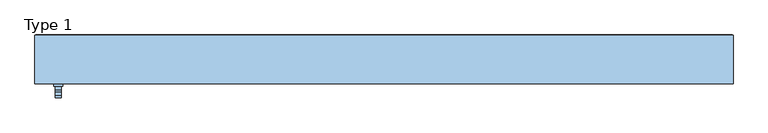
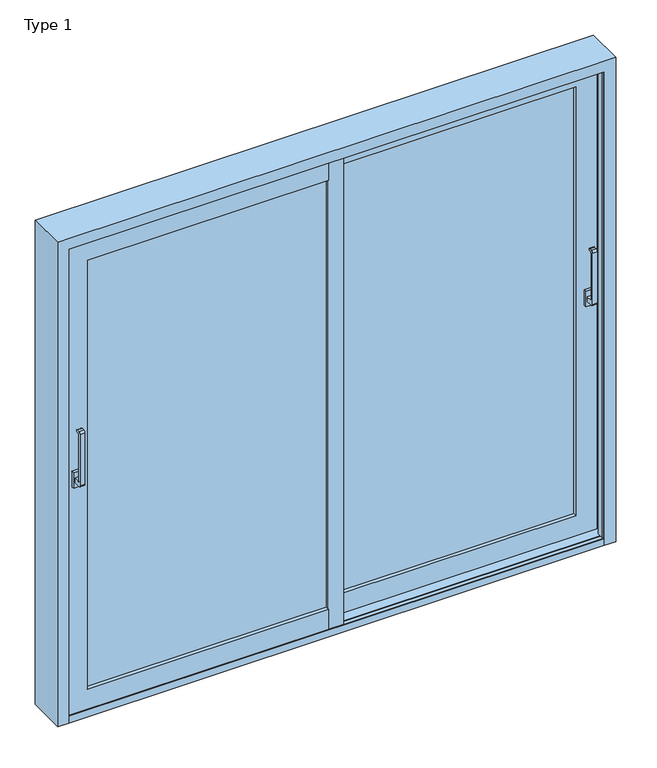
"""IFC4 building model written with IfcOpenShell, lengths in millimetres: window geometry, ETEM_E50_Double_Fly Screen_NI_Lift_Sliding_FR : Type 1."""

from ifc_helpers import new_model, si_unit, point, frame, frame_2d, origin, place, context, project, spatial, polyline, circle_curve, ellipse_curve, trimmed, segment, composite_curve, outline, extrude, faceted_brep, source, transform, mapped, element, save
from ifc_brep_helpers import plane_surface, cylinder_surface, revolved_surface, advanced_brep


def type_1_4643321e(model_context):
    return source(origin(), model_context, "Body", "SolidModel", [
        extrude(outline(polyline([(1135.0, -5.6518056), (1105.0, -5.6518056), (1105.0, 7.3481944), (1135.0, 7.3481944), (1135.0, -5.6518056)])), frame((0.0, 0.0, 1065.0), z_axis=(0.0, 0.0, 1.0), x_axis=(1.0, 0.0, 0.0)), (0.0, 0.0, 1.0), 70.0),
        extrude(outline(composite_curve([segment(polyline([(-5.6518056, 1090.0), (-37.2254904, 1090.0)]), True, "CONTINUOUS"), segment(trimmed(circle_curve(frame_2d((-37.2254904, 1098.4263152)), 8.4263152), [point((-37.2254904, 1090.0))], [point((-45.6518056, 1098.4263152))], False, "CARTESIAN"), True, "CONTINUOUS"), segment(polyline([(-45.6518056, 1098.4263152), (-45.6518056, 1331.5736848)]), True, "CONTINUOUS"), segment(trimmed(circle_curve(frame_2d((-37.2254904, 1331.5736848)), 8.4263152), [point((-45.6518056, 1331.5736848))], [point((-37.2254904, 1340.0))], False, "CARTESIAN"), True, "CONTINUOUS"), segment(polyline([(-37.2254904, 1340.0), (-25.6518056, 1340.0)]), True, "CONTINUOUS"), segment(trimmed(circle_curve(frame_2d((-25.6518056, 1335.0)), 5.0), [point((-25.6518056, 1340.0))], [point((-25.6518056, 1330.0))], False, "CARTESIAN"), True, "CONTINUOUS"), segment(polyline([(-25.6518056, 1330.0), (-32.1162717, 1330.0)]), True, "CONTINUOUS"), segment(trimmed(circle_curve(frame_2d((-32.1162717, 1326.4644661)), 3.5355339), [point((-32.1162717, 1330.0))], [point((-35.6518056, 1326.4644661))], True, "CARTESIAN"), True, "CONTINUOUS"), segment(polyline([(-35.6518056, 1326.4644661), (-35.6518056, 1113.5355339)]), True, "CONTINUOUS"), segment(trimmed(circle_curve(frame_2d((-32.1162717, 1113.5355339)), 3.5355339), [point((-35.6518056, 1113.5355339))], [point((-32.1162717, 1110.0))], True, "CARTESIAN"), True, "CONTINUOUS"), segment(polyline([(-32.1162717, 1110.0), (-5.6518056, 1110.0), (-5.6518056, 1090.0)]), True, "CONTINUOUS")], self_intersect=False)), frame((1110.0, 0.0, 0.0), z_axis=(1.0, 0.0, 0.0), x_axis=(0.0, 1.0, 0.0)), (0.0, 0.0, 1.0), 20.0),
        extrude(outline(polyline([(-1105.0, -70.6518056), (-1135.0, -70.6518056), (-1135.0, -57.6518056), (-1105.0, -57.6518056), (-1105.0, -70.6518056)])), frame((0.0, 0.0, 1065.0), z_axis=(0.0, 0.0, 1.0), x_axis=(1.0, 0.0, 0.0)), (0.0, 0.0, 1.0), 70.0),
        extrude(outline(composite_curve([segment(polyline([(-70.6518056, 1090.0), (-102.2254904, 1090.0)]), True, "CONTINUOUS"), segment(trimmed(circle_curve(frame_2d((-102.2254904, 1098.4263152)), 8.4263152), [point((-102.2254904, 1090.0))], [point((-110.6518056, 1098.4263152))], False, "CARTESIAN"), True, "CONTINUOUS"), segment(polyline([(-110.6518056, 1098.4263152), (-110.6518056, 1331.5736848)]), True, "CONTINUOUS"), segment(trimmed(circle_curve(frame_2d((-102.2254904, 1331.5736848)), 8.4263152), [point((-110.6518056, 1331.5736848))], [point((-102.2254904, 1340.0))], False, "CARTESIAN"), True, "CONTINUOUS"), segment(polyline([(-102.2254904, 1340.0), (-90.6518056, 1340.0)]), True, "CONTINUOUS"), segment(trimmed(circle_curve(frame_2d((-90.6518056, 1335.0)), 5.0), [point((-90.6518056, 1340.0))], [point((-90.6518056, 1330.0))], False, "CARTESIAN"), True, "CONTINUOUS"), segment(polyline([(-90.6518056, 1330.0), (-97.1162717, 1330.0)]), True, "CONTINUOUS"), segment(trimmed(circle_curve(frame_2d((-97.1162717, 1326.4644661)), 3.5355339), [point((-97.1162717, 1330.0))], [point((-100.6518056, 1326.4644661))], True, "CARTESIAN"), True, "CONTINUOUS"), segment(polyline([(-100.6518056, 1326.4644661), (-100.6518056, 1113.5355339)]), True, "CONTINUOUS"), segment(trimmed(circle_curve(frame_2d((-97.1162717, 1113.5355339)), 3.5355339), [point((-100.6518056, 1113.5355339))], [point((-97.1162717, 1110.0))], True, "CARTESIAN"), True, "CONTINUOUS"), segment(polyline([(-97.1162717, 1110.0), (-70.6518056, 1110.0), (-70.6518056, 1090.0)]), True, "CONTINUOUS")], self_intersect=False)), frame((-1130.0, 0.0, 0.0), z_axis=(1.0, 0.0, 0.0), x_axis=(0.0, 1.0, 0.0)), (0.0, 0.0, 1.0), 20.0),
        faceted_brep([(-32.5, -7.6518056, 121.470192), (-32.5, -57.6518056, 121.470192), (-32.5, -57.6518056, 29.970192), (-32.5, -52.9518056, 29.970192), (-32.5, -52.9518056, 59.170192), (-32.5, -12.3518056, 59.170192), (-32.5, -12.3518056, 29.970192), (-32.5, -7.6518056, 29.970192), (-32.5, -7.6518056, 2069.0), (-32.5, -7.6518056, 2160.5), (-32.5, -12.3518056, 2160.5), (-32.5, -12.3518056, 2131.3), (-32.5, -52.9518056, 2131.3), (-32.5, -52.9518056, 2160.5), (-32.5, -57.6518056, 2160.5), (-32.5, -57.6518056, 2069.0), (-1068.999965, -7.6518056, 121.470192), (-1068.999965, -57.6518056, 121.470192), (-1068.999965, -57.6518056, 2069.0), (-1160.499965, -57.6518056, 2160.5), (-1160.499965, -57.6518056, 29.970192), (-1160.499965, -52.9518056, 29.970192), (-1160.499965, -52.9518056, 2160.5), (-1131.299965, -52.9518056, 2131.3), (-1131.299965, -52.9518056, 59.170192), (-1131.299965, -12.3518056, 59.170192), (-1131.299965, -12.3518056, 2131.3), (-1160.499965, -12.3518056, 2160.5), (-1160.499965, -12.3518056, 29.970192), (-1160.499965, -7.6518056, 29.970192), (-1160.499965, -7.6518056, 2160.5), (-1068.999965, -7.6518056, 2069.0)], [[[0, 1, 2, 3, 4, 5, 6, 7]], [[8, 9, 10, 11, 12, 13, 14, 15]], [[1, 0, 16, 17]], [[2, 1, 17, 18, 15, 14, 19, 20]], [[3, 2, 20, 21]], [[4, 3, 21, 22, 13, 12, 23, 24]], [[5, 4, 24, 25]], [[6, 5, 25, 26, 11, 10, 27, 28]], [[7, 6, 28, 29]], [[0, 7, 29, 30, 9, 8, 31, 16]], [[17, 16, 31, 18]], [[21, 20, 19, 22]], [[25, 24, 23, 26]], [[29, 28, 27, 30]], [[18, 31, 8, 15]], [[22, 19, 14, 13]], [[26, 23, 12, 11]], [[30, 27, 10, 9]]]),
        extrude(outline(polyline([(32.5, -56.9259028), (-32.5, -56.9259028), (-32.5, -6.9259028), (2.55, -6.9259028), (2.55, 0.6), (0.0, 0.6), (0.0, 2.4740972), (4.4, 2.4740972), (4.4, -2.2259028), (15.75, -2.2259028), (15.75, 4.0740972), (32.5, 4.0740972), (32.5, -56.9259028)])), frame((0.0, 0.0, 29.970192), z_axis=(0.0, 0.0, 1.0), x_axis=(1.0, 0.0, 0.0)), (0.0, 0.0, 1.0), 2130.529808),
        extrude(outline(polyline([(-32.5, -41.6518056), (-1068.999965, -41.6518056), (-1068.999965, -36.6518056), (-32.5, -36.6518056), (-32.5, -41.6518056)])), frame((0.0, 0.0, 121.470192), z_axis=(0.0, 0.0, 1.0), x_axis=(1.0, 0.0, 0.0)), (0.0, 0.0, 1.0), 1947.529808),
        extrude(outline(polyline([(32.5, 49.3480733), (1068.999965, 49.3480733), (1068.999965, 44.3480733), (32.5, 44.3480733), (32.5, 49.3480733)])), frame((0.0, 0.0, 121.470192), z_axis=(0.0, 0.0, 1.0), x_axis=(1.0, 0.0, 0.0)), (0.0, 0.0, 1.0), 1947.529808),
        extrude(outline(polyline([(32.5, 28.3481944), (1068.999965, 28.3481944), (1068.999965, 23.3481944), (32.5, 23.3481944), (32.5, 28.3481944)])), frame((0.0, 0.0, 121.470192), z_axis=(0.0, 0.0, 1.0), x_axis=(1.0, 0.0, 0.0)), (0.0, 0.0, 1.0), 1947.529808),
        extrude(outline(polyline([(-32.5, -20.6519267), (-1068.999965, -20.6519267), (-1068.999965, -15.6519267), (-32.5, -15.6519267), (-32.5, -20.6519267)])), frame((0.0, 0.0, 121.470192), z_axis=(0.0, 0.0, 1.0), x_axis=(1.0, 0.0, 0.0)), (0.0, 0.0, 1.0), 1947.529808),
        extrude(outline(polyline([(-28.5, 71.3620462), (-1099.499965, 71.3620462), (-1099.499965, 72.3620462), (-28.5, 72.3620462), (-28.5, 71.3620462)])), frame((0.0, 0.0, 90.970192), z_axis=(0.0, 0.0, 1.0), x_axis=(1.0, 0.0, 0.0)), (0.0, 0.0, 1.0), 2008.529808),
        advanced_brep(
        [(-30.7545455, 73.5595618, 2097.2454545), (-30.7, 72.3620462, 2097.3), (-30.7, 72.3620462, 93.170192), (-30.7545455, 73.5595618, 93.2247374), (-1097.299965, 72.3620462, 2097.3), (-1097.299965, 72.3620462, 93.170192), (-32.5, 72.3620462, 94.970192), (-1095.499965, 72.3620462, 94.970192), (-1095.499965, 72.3620462, 2095.5), (-32.5, 72.3620462, 2095.5), (-1097.2454195, 73.5595618, 93.2247374), (-31.3, 74.0574913, 2096.7), (-31.3, 74.0574913, 93.770192), (-1096.699965, 74.0574913, 93.770192), (-31.3, 78.8481944, 2096.7), (-31.3, 78.8481944, 93.770192), (-1096.699965, 78.8481944, 93.770192), (-25.1, 78.8481944, 2102.9), (-1102.899965, 78.8481944, 2102.9), (-1102.899965, 78.8481944, 87.570192), (-25.1, 78.8481944, 87.570192), (-1096.699965, 78.8481944, 2096.7), (-25.1, 68.5481944, 2102.9), (-25.1, 68.5481944, 87.570192), (-1102.899965, 68.5481944, 87.570192), (-23.1, 68.5481944, 2104.9), (-1104.899965, 68.5481944, 2104.9), (-1104.899965, 68.5481944, 85.570192), (-23.1, 68.5481944, 85.570192), (-1102.899965, 68.5481944, 2102.9), (-23.1545455, 69.7457099, 2104.8454545), (-23.1545455, 69.7457099, 85.6247374), (-1104.8454195, 69.7457099, 85.6247374), (-23.7, 70.2436394, 2104.3), (-23.7, 70.2436394, 86.170192), (-1104.299965, 70.2436394, 86.170192), (-23.7, 76.3481944, 2104.3), (-23.7, 76.3481944, 86.170192), (-1104.299965, 76.3481944, 86.170192), (-3.2, 76.3481944, 2124.8), (-1124.799965, 76.3481944, 2124.8), (-1124.799965, 76.3481944, 65.670192), (-3.2, 76.3481944, 65.670192), (-1104.299965, 76.3481944, 2104.3), (-3.2, 67.3481944, 2124.8), (-3.2, 67.3481944, 65.670192), (-1124.799965, 67.3481944, 65.670192), (22.9949874, 67.3481944, 2150.9949874), (-1150.9949524, 67.3481944, 2150.9949874), (-1150.9949524, 67.3481944, 39.4752045), (22.9949874, 67.3481944, 39.4752045), (-1124.799965, 67.3481944, 2124.8), (22.9949874, 65.5481944, 2150.9949874), (22.9949874, 65.5481944, 39.4752045), (-1150.9949524, 65.5481944, 39.4752045), (32.5, 65.5481944, 2160.5), (-1160.499965, 65.5481944, 2160.5), (-1160.499965, 65.5481944, 29.970192), (32.5, 65.5481944, 29.970192), (-1150.9949524, 65.5481944, 2150.9949874), (32.5, 74.5481944, 2160.5), (32.5, 74.5481944, 29.970192), (-1160.499965, 74.5481944, 29.970192), (-1160.499965, 74.5481944, 2160.5), (20.3, 74.5481944, 2148.3), (-1148.299965, 74.5481944, 2148.3), (-1148.299965, 74.5481944, 42.170192), (20.3, 74.5481944, 42.170192), (20.3, 92.1481944, 2148.3), (20.3, 92.1481944, 42.170192), (-1148.299965, 92.1481944, 42.170192), (32.5, 92.1481944, 2160.5), (-1160.499965, 92.1481944, 2160.5), (-1160.499965, 92.1481944, 29.970192), (32.5, 92.1481944, 29.970192), (-1148.299965, 92.1481944, 2148.3), (32.5, 99.3481944, 2160.5), (32.5, 99.3481944, 29.970192), (-1160.499965, 99.3481944, 29.970192), (-1160.499965, 99.3481944, 2160.5), (-3.2, 99.3481944, 2124.8), (-1124.799965, 99.3481944, 2124.8), (-1124.799965, 99.3481944, 65.670192), (-3.2, 99.3481944, 65.670192), (-3.2, 90.1481944, 2124.8), (-3.2, 90.1481944, 65.670192), (-1124.799965, 90.1481944, 65.670192), (-1124.799965, 90.1481944, 2124.8), (-20.0, 90.1481944, 2108.0), (-1107.999965, 90.1481944, 2108.0), (-1107.999965, 90.1481944, 82.470192), (-20.0, 90.1481944, 82.470192), (-20.0, 99.3481944, 2108.0), (-20.0, 99.3481944, 82.470192), (-1107.999965, 99.3481944, 82.470192), (-1107.999965, 99.3481944, 2108.0), (-32.5, 99.3481944, 2095.5), (-1095.499965, 99.3481944, 2095.5), (-1095.499965, 99.3481944, 94.970192), (-32.5, 99.3481944, 94.970192), (-1097.2454195, 73.5595618, 2097.2454545), (-1096.699965, 74.0574913, 2096.7), (-1104.8454195, 69.7457099, 2104.8454545), (-1104.299965, 70.2436394, 2104.3)],
        [
            (0, 1, ellipse_curve(frame((-30.7, 72.9620462, 2097.3), z_axis=(0.7071067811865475, 0.0, -0.7071067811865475), x_axis=(0.7071067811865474, 0.0, 0.7071067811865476)), 0.8485281, 0.6)),
            (1, 2),
            (2, 3, ellipse_curve(frame((-30.7, 72.9620462, 93.170192), z_axis=(0.7071067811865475, 0.0, 0.7071067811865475), x_axis=(-0.7071067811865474, 0.0, 0.7071067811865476)), 0.8485281, 0.6)),
            (3, 0),
            (1, 4),
            (4, 5),
            (5, 2),
            (6, 7),
            (7, 8),
            (8, 9),
            (9, 6),
            (5, 10, ellipse_curve(frame((-1097.299965, 72.9620462, 93.170192), z_axis=(0.7071067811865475, 0.0, -0.7071067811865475), x_axis=(0.7071067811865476, 0.0, 0.7071067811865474)), 0.8485281, 0.6)),
            (10, 3),
            (11, 0, ellipse_curve(frame((-30.8, 74.0574913, 2097.2), z_axis=(-0.7071067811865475, 0.0, 0.7071067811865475), x_axis=(-0.7071067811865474, 0.0, -0.7071067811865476)), 0.7071068, 0.5)),
            (3, 12, ellipse_curve(frame((-30.8, 74.0574913, 93.270192), z_axis=(-0.7071067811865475, 0.0, -0.7071067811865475), x_axis=(0.7071067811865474, 0.0, -0.7071067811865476)), 0.7071068, 0.5)),
            (12, 11),
            (10, 13, ellipse_curve(frame((-1097.199965, 74.0574913, 93.270192), z_axis=(-0.7071067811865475, 0.0, 0.7071067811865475), x_axis=(-0.7071067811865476, 0.0, -0.7071067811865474)), 0.7071068, 0.5)),
            (13, 12),
            (14, 11),
            (12, 15),
            (15, 14),
            (13, 16),
            (16, 15),
            (17, 18),
            (18, 19),
            (19, 20),
            (20, 17),
            (16, 21),
            (21, 14),
            (22, 17),
            (20, 23),
            (23, 22),
            (19, 24),
            (24, 23),
            (25, 26),
            (26, 27),
            (27, 28),
            (28, 25),
            (24, 29),
            (29, 22),
            (30, 25, ellipse_curve(frame((-23.1, 69.1481944, 2104.9), z_axis=(0.7071067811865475, 0.0, -0.7071067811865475), x_axis=(0.7071067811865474, 0.0, 0.7071067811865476)), 0.8485281, 0.6)),
            (28, 31, ellipse_curve(frame((-23.1, 69.1481944, 85.570192), z_axis=(0.7071067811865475, 0.0, 0.7071067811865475), x_axis=(-0.7071067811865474, 0.0, 0.7071067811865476)), 0.8485281, 0.6)),
            (31, 30),
            (27, 32, ellipse_curve(frame((-1104.899965, 69.1481944, 85.570192), z_axis=(0.7071067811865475, 0.0, -0.7071067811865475), x_axis=(0.7071067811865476, 0.0, 0.7071067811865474)), 0.8485281, 0.6)),
            (32, 31),
            (33, 30, ellipse_curve(frame((-23.2, 70.2436394, 2104.8), z_axis=(-0.7071067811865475, 0.0, 0.7071067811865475), x_axis=(-0.7071067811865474, 0.0, -0.7071067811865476)), 0.7071068, 0.5)),
            (31, 34, ellipse_curve(frame((-23.2, 70.2436394, 85.670192), z_axis=(-0.7071067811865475, 0.0, -0.7071067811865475), x_axis=(0.7071067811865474, 0.0, -0.7071067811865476)), 0.7071068, 0.5)),
            (34, 33),
            (32, 35, ellipse_curve(frame((-1104.799965, 70.2436394, 85.670192), z_axis=(-0.7071067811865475, 0.0, 0.7071067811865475), x_axis=(-0.7071067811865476, 0.0, -0.7071067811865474)), 0.7071068, 0.5)),
            (35, 34),
            (36, 33),
            (34, 37),
            (37, 36),
            (35, 38),
            (38, 37),
            (39, 40),
            (40, 41),
            (41, 42),
            (42, 39),
            (38, 43),
            (43, 36),
            (44, 39),
            (42, 45),
            (45, 44),
            (41, 46),
            (46, 45),
            (47, 48),
            (48, 49),
            (49, 50),
            (50, 47),
            (46, 51),
            (51, 44),
            (52, 47),
            (50, 53),
            (53, 52),
            (49, 54),
            (54, 53),
            (55, 56),
            (56, 57),
            (57, 58),
            (58, 55),
            (54, 59),
            (59, 52),
            (60, 55),
            (58, 61),
            (61, 60),
            (57, 62),
            (62, 61),
            (62, 63),
            (63, 60),
            (64, 65),
            (65, 66),
            (66, 67),
            (67, 64),
            (68, 64),
            (67, 69),
            (69, 68),
            (66, 70),
            (70, 69),
            (71, 72),
            (72, 73),
            (73, 74),
            (74, 71),
            (70, 75),
            (75, 68),
            (76, 71),
            (74, 77),
            (77, 76),
            (73, 78),
            (78, 77),
            (78, 79),
            (79, 76),
            (80, 81),
            (81, 82),
            (82, 83),
            (83, 80),
            (84, 80),
            (83, 85),
            (85, 84),
            (82, 86),
            (86, 85),
            (86, 87),
            (87, 84),
            (88, 89),
            (89, 90),
            (90, 91),
            (91, 88),
            (92, 88),
            (91, 93),
            (93, 92),
            (90, 94),
            (94, 93),
            (94, 95),
            (95, 92),
            (96, 97),
            (97, 98),
            (98, 99),
            (99, 96),
            (9, 96),
            (99, 6),
            (98, 7),
            (4, 100, ellipse_curve(frame((-1097.299965, 72.9620462, 2097.3), z_axis=(-0.7071067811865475, 0.0, -0.7071067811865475), x_axis=(0.7071067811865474, 0.0, -0.7071067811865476)), 0.8485281, 0.6)),
            (100, 10),
            (100, 101, ellipse_curve(frame((-1097.199965, 74.0574913, 2097.2), z_axis=(0.7071067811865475, 0.0, 0.7071067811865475), x_axis=(-0.7071067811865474, 0.0, 0.7071067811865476)), 0.7071068, 0.5)),
            (101, 13),
            (101, 21),
            (18, 29),
            (26, 102, ellipse_curve(frame((-1104.899965, 69.1481944, 2104.9), z_axis=(-0.7071067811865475, 0.0, -0.7071067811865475), x_axis=(0.7071067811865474, 0.0, -0.7071067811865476)), 0.8485281, 0.6)),
            (102, 32),
            (102, 103, ellipse_curve(frame((-1104.799965, 70.2436394, 2104.8), z_axis=(0.7071067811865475, 0.0, 0.7071067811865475), x_axis=(-0.7071067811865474, 0.0, 0.7071067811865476)), 0.7071068, 0.5)),
            (103, 35),
            (103, 43),
            (40, 51),
            (48, 59),
            (56, 63),
            (65, 75),
            (72, 79),
            (81, 87),
            (89, 95),
            (97, 8),
            (0, 100),
            (11, 101),
            (30, 102),
            (33, 103),
        ],
        [
            cylinder_surface(frame((-30.7, 72.9620462, 2160.5), z_axis=(0.0, 0.0, 1.0), x_axis=(1.0, 0.0, 0.0)), 0.6),
            plane_surface(frame((-1095.499965, 72.3620462, 2095.5), z_axis=(0.0, -1.0, 0.0), x_axis=(1.0, 0.0, 0.0))),
            cylinder_surface(frame((32.5, 72.9620462, 93.170192), z_axis=(1.0, 0.0, 0.0), x_axis=(0.0, 0.0, -1.0)), 0.6),
            revolved_surface(polyline([(-30.3, 74.0574913, 92.77019198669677), (-30.3, 74.0574913, 2097.700000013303)]), (-30.8, 74.0574913, 2160.5), (0.0, 0.0, -1.0)),
            revolved_surface(polyline([(-1097.6999650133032, 74.0574913, 92.770192), (-30.299999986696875, 74.0574913, 92.770192)]), (32.5, 74.0574913, 93.270192), (-1.0, 0.0, 0.0)),
            plane_surface(frame((-31.3, 74.0574913, 2096.7), z_axis=(1.0, 0.0, 0.0), x_axis=(0.0, 0.0, -1.0))),
            plane_surface(frame((-31.3, 74.0574913, 93.770192), z_axis=(0.0, 0.0, -1.0), x_axis=(-1.0, 0.0, 0.0))),
            plane_surface(frame((-1096.699965, 78.8481944, 2096.7), z_axis=(0.0, -1.0, 0.0), x_axis=(1.0, 0.0, 0.0))),
            plane_surface(frame((-25.1, 78.8481944, 2102.9), z_axis=(-1.0, 0.0, 0.0), x_axis=(0.0, 0.0, -1.0))),
            plane_surface(frame((-25.1, 78.8481944, 87.570192), z_axis=(0.0, 0.0, 1.0), x_axis=(-1.0, 0.0, 0.0))),
            plane_surface(frame((-1102.899965, 68.5481944, 2102.9), z_axis=(0.0, -1.0, 0.0), x_axis=(1.0, 0.0, 0.0))),
            cylinder_surface(frame((-23.1, 69.1481944, 2160.5), z_axis=(0.0, 0.0, 1.0), x_axis=(1.0, 0.0, 0.0)), 0.6),
            cylinder_surface(frame((32.5, 69.1481944, 85.570192), z_axis=(1.0, 0.0, 0.0), x_axis=(0.0, 0.0, -1.0)), 0.6),
            revolved_surface(polyline([(-22.7, 70.2436394, 85.17019198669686), (-22.7, 70.2436394, 2105.3000000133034)]), (-23.2, 70.2436394, 2160.5), (0.0, 0.0, -1.0)),
            revolved_surface(polyline([(-1105.299965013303, 70.2436394, 85.170192), (-22.69999998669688, 70.2436394, 85.170192)]), (32.5, 70.2436394, 85.670192), (-1.0, 0.0, 0.0)),
            plane_surface(frame((-23.7, 70.2436394, 2104.3), z_axis=(1.0, 0.0, 0.0), x_axis=(0.0, 0.0, -1.0))),
            plane_surface(frame((-23.7, 70.2436394, 86.170192), z_axis=(0.0, 0.0, -1.0), x_axis=(-1.0, 0.0, 0.0))),
            plane_surface(frame((-1104.299965, 76.3481944, 2104.3), z_axis=(0.0, -1.0, 0.0), x_axis=(1.0, 0.0, 0.0))),
            plane_surface(frame((-3.2, 76.3481944, 2124.8), z_axis=(-1.0, 0.0, 0.0), x_axis=(0.0, 0.0, -1.0))),
            plane_surface(frame((-3.2, 76.3481944, 65.670192), z_axis=(0.0, 0.0, 1.0), x_axis=(-1.0, 0.0, 0.0))),
            plane_surface(frame((-1124.799965, 67.3481944, 2124.8), z_axis=(0.0, -1.0, 0.0), x_axis=(1.0, 0.0, 0.0))),
            plane_surface(frame((22.9949874, 67.3481944, 2150.9949874), z_axis=(-1.0, 0.0, 0.0), x_axis=(0.0, 0.0, -1.0))),
            plane_surface(frame((22.9949874, 67.3481944, 39.4752045), z_axis=(0.0, 0.0, 1.0), x_axis=(-1.0, 0.0, 0.0))),
            plane_surface(frame((-1150.9949524, 65.5481944, 2150.9949874), z_axis=(0.0, -1.0, 0.0), x_axis=(1.0, 0.0, 0.0))),
            plane_surface(frame((32.5, 65.5481944, 2160.5), z_axis=(1.0, 0.0, 0.0), x_axis=(0.0, 0.0, -1.0))),
            plane_surface(frame((32.5, 65.5481944, 29.970192), z_axis=(0.0, 0.0, -1.0), x_axis=(-1.0, 0.0, 0.0))),
            plane_surface(frame((-1160.499965, 74.5481944, 2160.5), z_axis=(0.0, 1.0, 0.0), x_axis=(1.0, 0.0, 0.0))),
            plane_surface(frame((20.3, 74.5481944, 2148.3), z_axis=(1.0, 0.0, 0.0), x_axis=(0.0, 0.0, -1.0))),
            plane_surface(frame((20.3, 74.5481944, 42.170192), z_axis=(0.0, 0.0, -1.0), x_axis=(-1.0, 0.0, 0.0))),
            plane_surface(frame((-1148.299965, 92.1481944, 2148.3), z_axis=(0.0, -1.0, 0.0), x_axis=(1.0, 0.0, 0.0))),
            plane_surface(frame((32.5, 92.1481944, 2160.5), z_axis=(1.0, 0.0, 0.0), x_axis=(0.0, 0.0, -1.0))),
            plane_surface(frame((32.5, 92.1481944, 29.970192), z_axis=(0.0, 0.0, -1.0), x_axis=(-1.0, 0.0, 0.0))),
            plane_surface(frame((-1160.499965, 99.3481944, 2160.5), z_axis=(0.0, 1.0, 0.0), x_axis=(1.0, 0.0, 0.0))),
            plane_surface(frame((-3.2, 99.3481944, 2124.8), z_axis=(-1.0, 0.0, 0.0), x_axis=(0.0, 0.0, -1.0))),
            plane_surface(frame((-3.2, 99.3481944, 65.670192), z_axis=(0.0, 0.0, 1.0), x_axis=(-1.0, 0.0, 0.0))),
            plane_surface(frame((-1124.799965, 90.1481944, 2124.8), z_axis=(0.0, 1.0, 0.0), x_axis=(1.0, 0.0, 0.0))),
            plane_surface(frame((-20.0, 90.1481944, 2108.0), z_axis=(1.0, 0.0, 0.0), x_axis=(0.0, 0.0, -1.0))),
            plane_surface(frame((-20.0, 90.1481944, 82.470192), z_axis=(0.0, 0.0, -1.0), x_axis=(-1.0, 0.0, 0.0))),
            plane_surface(frame((-1107.999965, 99.3481944, 2108.0), z_axis=(0.0, 1.0, 0.0), x_axis=(1.0, 0.0, 0.0))),
            plane_surface(frame((-32.5, 99.3481944, 2095.5), z_axis=(-1.0, 0.0, 0.0), x_axis=(0.0, 0.0, -1.0))),
            plane_surface(frame((-32.5, 99.3481944, 94.970192), z_axis=(0.0, 0.0, 1.0), x_axis=(-1.0, 0.0, 0.0))),
            cylinder_surface(frame((-1097.299965, 72.9620462, 29.970192), z_axis=(0.0, 0.0, -1.0), x_axis=(-1.0, 0.0, 0.0)), 0.6),
            revolved_surface(polyline([(-1097.699965, 74.0574913, 2097.700000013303), (-1097.699965, 74.0574913, 92.77019198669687)]), (-1097.199965, 74.0574913, 29.970192), (0.0, 0.0, 1.0)),
            plane_surface(frame((-1096.699965, 74.0574913, 93.770192), z_axis=(-1.0, 0.0, 0.0), x_axis=(0.0, 0.0, 1.0))),
            plane_surface(frame((-1102.899965, 78.8481944, 87.570192), z_axis=(1.0, 0.0, 0.0), x_axis=(0.0, 0.0, 1.0))),
            cylinder_surface(frame((-1104.899965, 69.1481944, 29.970192), z_axis=(0.0, 0.0, -1.0), x_axis=(-1.0, 0.0, 0.0)), 0.6),
            revolved_surface(polyline([(-1105.299965, 70.2436394, 2105.3000000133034), (-1105.299965, 70.2436394, 85.17019198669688)]), (-1104.799965, 70.2436394, 29.970192), (0.0, 0.0, 1.0)),
            plane_surface(frame((-1104.299965, 70.2436394, 86.170192), z_axis=(-1.0, 0.0, 0.0), x_axis=(0.0, 0.0, 1.0))),
            plane_surface(frame((-1124.799965, 76.3481944, 65.670192), z_axis=(1.0, 0.0, 0.0), x_axis=(0.0, 0.0, 1.0))),
            plane_surface(frame((-1150.9949524, 67.3481944, 39.4752045), z_axis=(1.0, 0.0, 0.0), x_axis=(0.0, 0.0, 1.0))),
            plane_surface(frame((-1160.499965, 65.5481944, 29.970192), z_axis=(-1.0, 0.0, 0.0), x_axis=(0.0, 0.0, 1.0))),
            plane_surface(frame((-1148.299965, 74.5481944, 42.170192), z_axis=(-1.0, 0.0, 0.0), x_axis=(0.0, 0.0, 1.0))),
            plane_surface(frame((-1160.499965, 92.1481944, 29.970192), z_axis=(-1.0, 0.0, 0.0), x_axis=(0.0, 0.0, 1.0))),
            plane_surface(frame((-1124.799965, 99.3481944, 65.670192), z_axis=(1.0, 0.0, 0.0), x_axis=(0.0, 0.0, 1.0))),
            plane_surface(frame((-1107.999965, 90.1481944, 82.470192), z_axis=(-1.0, 0.0, 0.0), x_axis=(0.0, 0.0, 1.0))),
            plane_surface(frame((-1095.499965, 99.3481944, 94.970192), z_axis=(1.0, 0.0, 0.0), x_axis=(0.0, 0.0, 1.0))),
            cylinder_surface(frame((-1160.499965, 72.9620462, 2097.3), z_axis=(-1.0, 0.0, 0.0), x_axis=(0.0, 0.0, 1.0)), 0.6),
            revolved_surface(polyline([(-30.299999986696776, 74.0574913, 2097.7), (-1097.6999650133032, 74.0574913, 2097.7)]), (-1160.499965, 74.0574913, 2097.2), (1.0, 0.0, 0.0)),
            plane_surface(frame((-1096.699965, 74.0574913, 2096.7), z_axis=(0.0, 0.0, 1.0), x_axis=(1.0, 0.0, 0.0))),
            plane_surface(frame((-1102.899965, 78.8481944, 2102.9), z_axis=(0.0, 0.0, -1.0), x_axis=(1.0, 0.0, 0.0))),
            cylinder_surface(frame((-1160.499965, 69.1481944, 2104.9), z_axis=(-1.0, 0.0, 0.0), x_axis=(0.0, 0.0, 1.0)), 0.6),
            revolved_surface(polyline([(-22.699999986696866, 70.2436394, 2105.3), (-1105.299965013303, 70.2436394, 2105.3)]), (-1160.499965, 70.2436394, 2104.8), (1.0, 0.0, 0.0)),
            plane_surface(frame((-1104.299965, 70.2436394, 2104.3), z_axis=(0.0, 0.0, 1.0), x_axis=(1.0, 0.0, 0.0))),
            plane_surface(frame((-1124.799965, 76.3481944, 2124.8), z_axis=(0.0, 0.0, -1.0), x_axis=(1.0, 0.0, 0.0))),
            plane_surface(frame((-1150.9949524, 67.3481944, 2150.9949874), z_axis=(0.0, 0.0, -1.0), x_axis=(1.0, 0.0, 0.0))),
            plane_surface(frame((-1160.499965, 65.5481944, 2160.5), z_axis=(0.0, 0.0, 1.0), x_axis=(1.0, 0.0, 0.0))),
            plane_surface(frame((-1148.299965, 74.5481944, 2148.3), z_axis=(0.0, 0.0, 1.0), x_axis=(1.0, 0.0, 0.0))),
            plane_surface(frame((-1160.499965, 92.1481944, 2160.5), z_axis=(0.0, 0.0, 1.0), x_axis=(1.0, 0.0, 0.0))),
            plane_surface(frame((-1124.799965, 99.3481944, 2124.8), z_axis=(0.0, 0.0, -1.0), x_axis=(1.0, 0.0, 0.0))),
            plane_surface(frame((-1107.999965, 90.1481944, 2108.0), z_axis=(0.0, 0.0, 1.0), x_axis=(1.0, 0.0, 0.0))),
            plane_surface(frame((-1095.499965, 99.3481944, 2095.5), z_axis=(0.0, 0.0, -1.0), x_axis=(1.0, 0.0, 0.0))),
        ],
        [
            (0, [[1, 2, 3, 4]]),
            (1, [[5, 6, 7, -2], [8, 9, 10, 11]]),
            (2, [[-3, -7, 12, 13]]),
            (3, [[14, -4, 15, 16]]),
            (4, [[-15, -13, 17, 18]]),
            (5, [[19, -16, 20, 21]]),
            (6, [[-20, -18, 22, 23]]),
            (7, [[24, 25, 26, 27], [-23, 28, 29, -21]]),
            (8, [[30, -27, 31, 32]]),
            (9, [[-31, -26, 33, 34]]),
            (10, [[35, 36, 37, 38], [-34, 39, 40, -32]]),
            (11, [[41, -38, 42, 43]]),
            (12, [[-42, -37, 44, 45]]),
            (13, [[46, -43, 47, 48]]),
            (14, [[-47, -45, 49, 50]]),
            (15, [[51, -48, 52, 53]]),
            (16, [[-52, -50, 54, 55]]),
            (17, [[56, 57, 58, 59], [-55, 60, 61, -53]]),
            (18, [[62, -59, 63, 64]]),
            (19, [[-63, -58, 65, 66]]),
            (20, [[67, 68, 69, 70], [-66, 71, 72, -64]]),
            (21, [[73, -70, 74, 75]]),
            (22, [[-74, -69, 76, 77]]),
            (23, [[78, 79, 80, 81], [-77, 82, 83, -75]]),
            (24, [[84, -81, 85, 86]]),
            (25, [[-85, -80, 87, 88]]),
            (26, [[-88, 89, 90, -86], [91, 92, 93, 94]]),
            (27, [[95, -94, 96, 97]]),
            (28, [[-96, -93, 98, 99]]),
            (29, [[100, 101, 102, 103], [-99, 104, 105, -97]]),
            (30, [[106, -103, 107, 108]]),
            (31, [[-107, -102, 109, 110]]),
            (32, [[-110, 111, 112, -108], [113, 114, 115, 116]]),
            (33, [[117, -116, 118, 119]]),
            (34, [[-118, -115, 120, 121]]),
            (35, [[-121, 122, 123, -119], [124, 125, 126, 127]]),
            (36, [[128, -127, 129, 130]]),
            (37, [[-129, -126, 131, 132]]),
            (38, [[-132, 133, 134, -130], [135, 136, 137, 138]]),
            (39, [[139, -138, 140, -11]]),
            (40, [[-140, -137, 141, -8]]),
            (41, [[-12, -6, 142, 143]]),
            (42, [[-17, -143, 144, 145]]),
            (43, [[-22, -145, 146, -28]]),
            (44, [[-33, -25, 147, -39]]),
            (45, [[-44, -36, 148, 149]]),
            (46, [[-49, -149, 150, 151]]),
            (47, [[-54, -151, 152, -60]]),
            (48, [[-65, -57, 153, -71]]),
            (49, [[-76, -68, 154, -82]]),
            (50, [[-87, -79, 155, -89]]),
            (51, [[-98, -92, 156, -104]]),
            (52, [[-109, -101, 157, -111]]),
            (53, [[-120, -114, 158, -122]]),
            (54, [[-131, -125, 159, -133]]),
            (55, [[-141, -136, 160, -9]]),
            (56, [[-142, -5, -1, 161]]),
            (57, [[-144, -161, -14, 162]]),
            (58, [[-146, -162, -19, -29]]),
            (59, [[-147, -24, -30, -40]]),
            (60, [[-148, -35, -41, 163]]),
            (61, [[-150, -163, -46, 164]]),
            (62, [[-152, -164, -51, -61]]),
            (63, [[-153, -56, -62, -72]]),
            (64, [[-154, -67, -73, -83]]),
            (65, [[-155, -78, -84, -90]]),
            (66, [[-156, -91, -95, -105]]),
            (67, [[-157, -100, -106, -112]]),
            (68, [[-158, -113, -117, -123]]),
            (69, [[-159, -124, -128, -134]]),
            (70, [[-160, -135, -139, -10]]),
        ],
    ),
        faceted_brep([(32.5, 57.3481944, 121.470192), (32.5, 57.3481944, 29.970192), (32.5, 52.6481944, 29.970192), (32.5, 52.6481944, 59.170192), (32.5, 12.0481944, 59.170192), (32.5, 12.0481944, 29.970192), (32.5, 7.3481944, 29.970192), (32.5, 7.3481944, 121.470192), (32.5, 57.3481944, 2069.0), (32.5, 7.3481944, 2069.0), (32.5, 7.3481944, 2160.5), (32.5, 12.0481944, 2160.5), (32.5, 12.0481944, 2131.3), (32.5, 52.6481944, 2131.3), (32.5, 52.6481944, 2160.5), (32.5, 57.3481944, 2160.5), (1068.999965, 57.3481944, 121.470192), (1068.999965, 57.3481944, 2069.0), (1160.499965, 57.3481944, 2160.5), (1160.499965, 57.3481944, 29.970192), (1160.499965, 52.6481944, 29.970192), (1160.499965, 52.6481944, 2160.5), (1131.299965, 52.6481944, 2131.3), (1131.299965, 52.6481944, 59.170192), (1131.299965, 12.0481944, 59.170192), (1131.299965, 12.0481944, 2131.3), (1160.499965, 12.0481944, 2160.5), (1160.499965, 12.0481944, 29.970192), (1160.499965, 7.3481944, 29.970192), (1160.499965, 7.3481944, 2160.5), (1068.999965, 7.3481944, 2069.0), (1068.999965, 7.3481944, 121.470192)], [[[0, 1, 2, 3, 4, 5, 6, 7]], [[8, 9, 10, 11, 12, 13, 14, 15]], [[1, 0, 16, 17, 8, 15, 18, 19]], [[2, 1, 19, 20]], [[3, 2, 20, 21, 14, 13, 22, 23]], [[4, 3, 23, 24]], [[5, 4, 24, 25, 12, 11, 26, 27]], [[6, 5, 27, 28]], [[7, 6, 28, 29, 10, 9, 30, 31]], [[0, 7, 31, 16]], [[16, 31, 30, 17]], [[20, 19, 18, 21]], [[24, 23, 22, 25]], [[28, 27, 26, 29]], [[21, 18, 15, 14]], [[25, 22, 13, 12]], [[29, 26, 11, 10]], [[17, 30, 9, 8]]]),
        extrude(outline(polyline([(-32.5, 58.0505722), (32.5, 58.0505722), (32.5, 8.0505722), (-2.55, 8.0505722), (-2.55, 0.5246694), (0.0, 0.5246694), (0.0, -1.3494278), (-4.4, -1.3494278), (-4.4, 3.3505722), (-15.75, 3.3505722), (-15.75, -2.9494278), (-32.5, -2.9494278), (-32.5, 58.0505722)])), frame((0.0, 0.0, 29.970192), z_axis=(0.0, 0.0, 1.0), x_axis=(1.0, 0.0, 0.0)), (0.0, 0.0, 1.0), 2130.529808),
        faceted_brep([(1200.0, -63.2518056, 0.0), (1200.0, 103.5481944, 0.0), (1200.0, 103.5481944, 2200.0), (1200.0, -63.2518056, 2200.0), (1159.5, 87.8481944, 0.0), (1159.5, 89.3481944, 0.0), (1159.5, 89.3481944, 2159.5), (1159.5, 87.8481944, 2159.5), (1151.5, 89.3481944, 0.0), (1151.5, 77.3481944, 0.0), (1151.5, 77.3481944, 2151.5), (1151.5, 89.3481944, 2151.5), (1159.5, 77.3481944, 0.0), (1159.5, 78.8481944, 0.0), (1159.5, 78.8481944, 2159.5), (1159.5, 77.3481944, 2159.5), (1178.2, 78.8481944, 0.0), (1178.2, 36.8481944, 0.0), (1178.2, 36.8481944, 2178.2), (1178.2, 78.8481944, 2178.2), (1159.5, 36.8481944, 0.0), (1159.5, 48.3481944, 0.0), (1159.5, 48.3481944, 2159.5), (1159.5, 36.8481944, 2159.5), (1151.5, 48.3481944, 0.0), (1151.5, 16.3481944, 0.0), (1151.5, 16.3481944, 2151.5), (1151.5, 48.3481944, 2151.5), (1159.5, 16.3481944, 0.0), (1159.5, 27.8481944, 0.0), (1159.5, 27.8481944, 2159.5), (1159.5, 16.3481944, 2159.5), (1178.2, 27.8481944, 0.0), (1178.2, -28.1518056, 0.0), (1178.2, -28.1518056, 2178.2), (1178.2, 27.8481944, 2178.2), (1159.5, -28.1518056, 0.0), (1159.5, -16.6518056, 0.0), (1159.5, -16.6518056, 2159.5), (1159.5, -28.1518056, 2159.5), (1151.5, -16.6518056, 0.0), (1151.5, -48.6518056, 0.0), (1151.5, -48.6518056, 2151.5), (1151.5, -16.6518056, 2151.5), (1159.5, -48.6518056, 0.0), (1159.5, -37.1518056, 0.0), (1159.5, -37.1518056, 2159.5), (1159.5, -48.6518056, 2159.5), (1178.2, -37.1518056, 0.0), (1178.2, -59.6518056, 0.0), (1178.2, -59.6518056, 2178.2), (1178.2, -37.1518056, 2178.2), (1151.5, -59.6518056, 0.0), (1151.5, -63.2518056, 0.0), (1151.5, -63.2518056, 2151.5), (1151.5, -59.6518056, 2151.5), (-1200.0, 103.5481944, 0.0), (-1200.0, -63.2518056, 0.0), (-1200.0, -63.2518056, 2200.0), (-1200.0, 103.5481944, 2200.0), (-1159.5, 89.3481944, 0.0), (-1159.5, 87.8481944, 0.0), (-1159.5, 87.8481944, 2159.5), (-1159.5, 89.3481944, 2159.5), (-1151.5, 77.3481944, 0.0), (-1151.5, 89.3481944, 0.0), (-1151.5, 89.3481944, 2151.5), (-1151.5, 77.3481944, 2151.5), (-1159.5, 78.8481944, 0.0), (-1159.5, 77.3481944, 0.0), (-1159.5, 77.3481944, 2159.5), (-1159.5, 78.8481944, 2159.5), (-1178.2, 36.8481944, 0.0), (-1178.2, 78.8481944, 0.0), (-1178.2, 78.8481944, 2178.2), (-1178.2, 36.8481944, 2178.2), (-1159.5, 48.3481944, 0.0), (-1159.5, 36.8481944, 0.0), (-1159.5, 36.8481944, 2159.5), (-1159.5, 48.3481944, 2159.5), (-1151.5, 16.3481944, 0.0), (-1151.5, 48.3481944, 0.0), (-1151.5, 48.3481944, 2151.5), (-1151.5, 16.3481944, 2151.5), (-1159.5, 27.8481944, 0.0), (-1159.5, 16.3481944, 0.0), (-1159.5, 16.3481944, 2159.5), (-1159.5, 27.8481944, 2159.5), (-1178.2, -28.1518056, 0.0), (-1178.2, 27.8481944, 0.0), (-1178.2, 27.8481944, 2178.2), (-1178.2, -28.1518056, 2178.2), (-1159.5, -16.6518056, 0.0), (-1159.5, -28.1518056, 0.0), (-1159.5, -28.1518056, 2159.5), (-1159.5, -16.6518056, 2159.5), (-1151.5, -48.6518056, 0.0), (-1151.5, -16.6518056, 0.0), (-1151.5, -16.6518056, 2151.5), (-1151.5, -48.6518056, 2151.5), (-1159.5, -37.1518056, 0.0), (-1159.5, -48.6518056, 0.0), (-1159.5, -48.6518056, 2159.5), (-1159.5, -37.1518056, 2159.5), (-1178.2, -59.6518056, 0.0), (-1178.2, -37.1518056, 0.0), (-1178.2, -37.1518056, 2178.2), (-1178.2, -59.6518056, 2178.2), (-1151.5, -63.2518056, 0.0), (-1151.5, -59.6518056, 0.0), (-1151.5, -59.6518056, 2151.5), (-1151.5, -63.2518056, 2151.5), (1196.5, 103.5481944, 0.0), (1196.5, 103.5481944, 2196.5), (-1196.5, 103.5481944, 2196.5), (-1196.5, 103.5481944, 0.0), (-1178.2, 87.8481944, 0.0), (-1178.2, 87.8481944, 2178.2), (1178.2, 87.8481944, 2178.2), (1178.2, 87.8481944, 0.0), (-1196.5, 105.0, 0.0), (-1151.5, 105.0, 0.0), (-1151.5, 101.4, 0.0), (-1178.2, 101.4, 0.0), (-1196.5, 105.0, 2196.5), (1196.5, 105.0, 2196.5), (1196.5, 105.0, 0.0), (1151.5, 105.0, 0.0), (1151.5, 105.0, 2151.5), (-1151.5, 105.0, 2151.5), (-1151.5, 101.4, 2151.5), (1151.5, 101.4, 2151.5), (1151.5, 101.4, 0.0), (1178.2, 101.4, 0.0), (1178.2, 101.4, 2178.2), (-1178.2, 101.4, 2178.2)], [[[0, 1, 2, 3]], [[4, 5, 6, 7]], [[8, 9, 10, 11]], [[12, 13, 14, 15]], [[16, 17, 18, 19]], [[20, 21, 22, 23]], [[24, 25, 26, 27]], [[28, 29, 30, 31]], [[32, 33, 34, 35]], [[36, 37, 38, 39]], [[40, 41, 42, 43]], [[44, 45, 46, 47]], [[48, 49, 50, 51]], [[52, 53, 54, 55]], [[56, 57, 58, 59]], [[60, 61, 62, 63]], [[64, 65, 66, 67]], [[68, 69, 70, 71]], [[72, 73, 74, 75]], [[76, 77, 78, 79]], [[80, 81, 82, 83]], [[84, 85, 86, 87]], [[88, 89, 90, 91]], [[92, 93, 94, 95]], [[96, 97, 98, 99]], [[100, 101, 102, 103]], [[104, 105, 106, 107]], [[108, 109, 110, 111]], [[3, 2, 59, 58]], [[7, 6, 63, 62]], [[11, 10, 67, 66]], [[15, 14, 71, 70]], [[19, 18, 75, 74]], [[23, 22, 79, 78]], [[27, 26, 83, 82]], [[31, 30, 87, 86]], [[35, 34, 91, 90]], [[39, 38, 95, 94]], [[43, 42, 99, 98]], [[47, 46, 103, 102]], [[51, 50, 107, 106]], [[55, 54, 111, 110]], [[57, 108, 111, 54, 53, 0, 3, 58]], [[2, 1, 112, 113, 114, 115, 56, 59]], [[61, 116, 117, 118, 119, 4, 7, 62]], [[65, 60, 63, 6, 5, 8, 11, 66]], [[69, 64, 67, 10, 9, 12, 15, 70]], [[73, 68, 71, 14, 13, 16, 19, 74]], [[77, 72, 75, 18, 17, 20, 23, 78]], [[81, 76, 79, 22, 21, 24, 27, 82]], [[85, 80, 83, 26, 25, 28, 31, 86]], [[89, 84, 87, 30, 29, 32, 35, 90]], [[93, 88, 91, 34, 33, 36, 39, 94]], [[97, 92, 95, 38, 37, 40, 43, 98]], [[101, 96, 99, 42, 41, 44, 47, 102]], [[105, 100, 103, 46, 45, 48, 51, 106]], [[109, 104, 107, 50, 49, 52, 55, 110]], [[120, 121, 122, 123, 116, 61, 60, 65, 64, 69, 68, 73, 72, 77, 76, 81, 80, 85, 84, 89, 88, 93, 92, 97, 96, 101, 100, 105, 104, 109, 108, 57, 56, 115]], [[121, 120, 124, 125, 126, 127, 128, 129]], [[122, 121, 129, 130]], [[123, 122, 130, 131, 132, 133, 134, 135]], [[116, 123, 135, 117]], [[120, 115, 114, 124]], [[126, 112, 1, 0, 53, 52, 49, 48, 45, 44, 41, 40, 37, 36, 33, 32, 29, 28, 25, 24, 21, 20, 17, 16, 13, 12, 9, 8, 5, 4, 119, 133, 132, 127]], [[112, 126, 125, 113]], [[133, 119, 118, 134]], [[127, 132, 131, 128]], [[129, 128, 131, 130]], [[117, 135, 134, 118]], [[125, 124, 114, 113]]]),
        faceted_brep([(1178.2, 100.7481944, 0.0), (-1178.2, 100.7481944, 0.0), (-1178.2, 100.7481944, 25.0), (1178.2, 100.7481944, 25.0), (-1178.2, 87.8481944, 25.0), (-1159.5, 87.8481944, 25.0), (-1159.5, 89.3481944, 25.0), (-1151.5, 89.3481944, 25.0), (-1151.5, 85.8481944, 25.0), (1151.5, 85.8481944, 25.0), (1151.5, 89.3481944, 25.0), (1159.5, 89.3481944, 25.0), (1159.5, 87.8481944, 25.0), (1178.2, 87.8481944, 25.0), (-1151.5, 85.8481944, 21.1999997), (1151.5, 85.8481944, 21.1999997), (-1151.5, 80.8481944, 21.1999997), (1151.5, 80.8481944, 21.1999997), (-1151.5, 80.8481944, 25.0), (1151.5, 80.8481944, 25.0), (-1151.5, 77.3481944, 25.0), (-1159.5, 77.3481944, 25.0), (-1159.5, 78.8481944, 25.0), (-1178.2, 78.8481944, 25.0), (-1178.2, 36.8481944, 25.0), (-1159.5, 36.8481944, 25.0), (-1159.5, 48.3481944, 25.0), (-1151.5, 48.3481944, 25.0), (-1151.5, 34.8481944, 25.0), (1151.5, 34.8481944, 25.0), (1151.5, 48.3481944, 25.0), (1159.5, 48.3481944, 25.0), (1159.5, 36.8481944, 25.0), (1178.2, 36.8481944, 25.0), (1178.2, 78.8481944, 25.0), (1159.5, 78.8481944, 25.0), (1159.5, 77.3481944, 25.0), (1151.5, 77.3481944, 25.0), (-1151.5, 34.8481944, 21.1999997), (1151.5, 34.8481944, 21.1999997), (-1151.5, 29.8481944, 21.1999997), (1151.5, 29.8481944, 21.1999997), (-1151.5, 29.8481944, 25.0), (1151.5, 29.8481944, 25.0), (-1151.5, 16.3481944, 25.0), (-1159.5, 16.3481944, 25.0), (-1159.5, 27.8481944, 25.0), (-1178.2, 27.8481944, 25.0), (-1178.2, -28.1518056, 25.0), (-1159.5, -28.1518056, 25.0), (-1159.5, -16.6518056, 25.0), (-1151.5, -16.6518056, 25.0), (-1151.5, -30.1518056, 25.0), (1151.5, -30.1518056, 25.0), (1151.5, -16.6518056, 25.0), (1159.5, -16.6518056, 25.0), (1159.5, -28.1518056, 25.0), (1178.2, -28.1518056, 25.0), (1178.2, 27.8481944, 25.0), (1159.5, 27.8481944, 25.0), (1159.5, 16.3481944, 25.0), (1151.5, 16.3481944, 25.0), (-1151.5, -30.1518056, 21.1999997), (1151.5, -30.1518056, 21.1999997), (-1151.5, -35.1518056, 21.1999997), (1151.5, -35.1518056, 21.1999997), (-1151.5, -35.1518056, 25.0), (1151.5, -35.1518056, 25.0), (-1151.5, -48.6518056, 25.0), (-1159.5, -48.6518056, 25.0), (-1159.5, -37.1518056, 25.0), (-1178.2, -37.1518056, 25.0), (-1178.2, -59.4518056, 25.0), (-1151.5, -59.4518056, 25.0), (1151.5, -59.4518056, 25.0), (1178.2, -59.4518056, 25.0), (1178.2, -37.1518056, 25.0), (1159.5, -37.1518056, 25.0), (1159.5, -48.6518056, 25.0), (1151.5, -48.6518056, 25.0), (-1151.5, -59.4518056, 29.970192), (1151.5, -59.4518056, 29.970192), (-1151.5, -63.2518056, 29.970192), (1151.5, -63.2518056, 29.970192), (-1151.5, -63.2518056, 0.0), (1151.5, -63.2518056, 0.0), (1178.2, 87.8481944, 0.0), (1159.5, 87.8481944, 0.0), (1159.5, 89.3481944, 0.0), (1151.5, 89.3481944, 0.0), (1151.5, 77.3481944, 0.0), (1159.5, 77.3481944, 0.0), (1159.5, 78.8481944, 0.0), (1178.2, 78.8481944, 0.0), (1178.2, 36.8481944, 0.0), (1159.5, 36.8481944, 0.0), (1159.5, 48.3481944, 0.0), (1151.5, 48.3481944, 0.0), (1151.5, 16.3481944, 0.0), (1159.5, 16.3481944, 0.0), (1159.5, 27.8481944, 0.0), (1178.2, 27.8481944, 0.0), (1178.2, -28.1518056, 0.0), (1159.5, -28.1518056, 0.0), (1159.5, -16.6518056, 0.0), (1151.5, -16.6518056, 0.0), (1151.5, -48.6518056, 0.0), (1159.5, -48.6518056, 0.0), (1159.5, -37.1518056, 0.0), (1178.2, -37.1518056, 0.0), (1178.2, -59.4518056, 0.0), (1151.5, -59.4518056, 0.0), (-1151.5, -59.4518056, 0.0), (-1178.2, -59.4518056, 0.0), (-1178.2, -37.1518056, 0.0), (-1159.5, -37.1518056, 0.0), (-1159.5, -48.6518056, 0.0), (-1151.5, -48.6518056, 0.0), (-1151.5, -16.6518056, 0.0), (-1159.5, -16.6518056, 0.0), (-1159.5, -28.1518056, 0.0), (-1178.2, -28.1518056, 0.0), (-1178.2, 27.8481944, 0.0), (-1159.5, 27.8481944, 0.0), (-1159.5, 16.3481944, 0.0), (-1151.5, 16.3481944, 0.0), (-1151.5, 48.3481944, 0.0), (-1159.5, 48.3481944, 0.0), (-1159.5, 36.8481944, 0.0), (-1178.2, 36.8481944, 0.0), (-1178.2, 78.8481944, 0.0), (-1159.5, 78.8481944, 0.0), (-1159.5, 77.3481944, 0.0), (-1151.5, 77.3481944, 0.0), (-1151.5, 89.3481944, 0.0), (-1159.5, 89.3481944, 0.0), (-1159.5, 87.8481944, 0.0), (-1178.2, 87.8481944, 0.0)], [[[0, 1, 2, 3]], [[3, 2, 4, 5, 6, 7, 8, 9, 10, 11, 12, 13]], [[9, 8, 14, 15]], [[15, 14, 16, 17]], [[17, 16, 18, 19]], [[19, 18, 20, 21, 22, 23, 24, 25, 26, 27, 28, 29, 30, 31, 32, 33, 34, 35, 36, 37]], [[29, 28, 38, 39]], [[39, 38, 40, 41]], [[41, 40, 42, 43]], [[43, 42, 44, 45, 46, 47, 48, 49, 50, 51, 52, 53, 54, 55, 56, 57, 58, 59, 60, 61]], [[53, 52, 62, 63]], [[63, 62, 64, 65]], [[65, 64, 66, 67]], [[67, 66, 68, 69, 70, 71, 72, 73, 74, 75, 76, 77, 78, 79]], [[74, 73, 80, 81]], [[81, 80, 82, 83]], [[83, 82, 84, 85]], [[1, 0, 86, 87, 88, 89, 90, 91, 92, 93, 94, 95, 96, 97, 98, 99, 100, 101, 102, 103, 104, 105, 106, 107, 108, 109, 110, 111, 85, 84, 112, 113, 114, 115, 116, 117, 118, 119, 120, 121, 122, 123, 124, 125, 126, 127, 128, 129, 130, 131, 132, 133, 134, 135, 136, 137]], [[73, 112, 84, 82, 80]], [[112, 73, 72, 113]], [[113, 72, 71, 114]], [[114, 71, 70, 115]], [[115, 70, 69, 116]], [[116, 69, 68, 117]], [[117, 68, 66, 64, 62, 52, 51, 118]], [[118, 51, 50, 119]], [[119, 50, 49, 120]], [[120, 49, 48, 121]], [[121, 48, 47, 122]], [[122, 47, 46, 123]], [[123, 46, 45, 124]], [[124, 45, 44, 125]], [[125, 44, 42, 40, 38, 28, 27, 126]], [[126, 27, 26, 127]], [[127, 26, 25, 128]], [[128, 25, 24, 129]], [[129, 24, 23, 130]], [[130, 23, 22, 131]], [[131, 22, 21, 132]], [[132, 21, 20, 133]], [[133, 20, 18, 16, 14, 8, 7, 134]], [[134, 7, 6, 135]], [[135, 6, 5, 136]], [[136, 5, 4, 137]], [[137, 4, 2, 1]], [[13, 86, 0, 3]], [[86, 13, 12, 87]], [[87, 12, 11, 88]], [[88, 11, 10, 89]], [[89, 10, 9, 15, 17, 19, 37, 90]], [[90, 37, 36, 91]], [[91, 36, 35, 92]], [[92, 35, 34, 93]], [[93, 34, 33, 94]], [[94, 33, 32, 95]], [[95, 32, 31, 96]], [[96, 31, 30, 97]], [[97, 30, 29, 39, 41, 43, 61, 98]], [[98, 61, 60, 99]], [[99, 60, 59, 100]], [[100, 59, 58, 101]], [[101, 58, 57, 102]], [[102, 57, 56, 103]], [[103, 56, 55, 104]], [[104, 55, 54, 105]], [[105, 54, 53, 63, 65, 67, 79, 106]], [[106, 79, 78, 107]], [[107, 78, 77, 108]], [[108, 77, 76, 109]], [[75, 110, 109, 76]], [[110, 75, 74, 111]], [[111, 74, 81, 83, 85]]]),
    ])


if __name__ == "__main__":
    model = new_model("IFC4")
    model_context = context("Model", 3, world=origin())
    ifc_project = project(units=[si_unit("LENGTHUNIT", "METRE", prefix="MILLI")], contexts=[model_context])
    site = spatial("IfcSite", under=ifc_project)
    building = spatial("IfcBuilding", under=site)
    placement = place(None, origin())
    type_1_shape = type_1_4643321e(model_context)
    element("IfcWindow", 1, ObjectType="ETEM_E50_Double_Fly Screen_NI_Lift_Sliding_FR : Type 1", at=placement, inside=building, context=model_context, shape_type="MappedRepresentation", body=[
        mapped(type_1_shape, transform((0.0, 0.0, 0.0), x_axis=(1.0, 0.0, 0.0), y_axis=(0.0, 1.0, 0.0), z_axis=(0.0, 0.0, 1.0))),
    ])
    save(model, "model.ifc")
